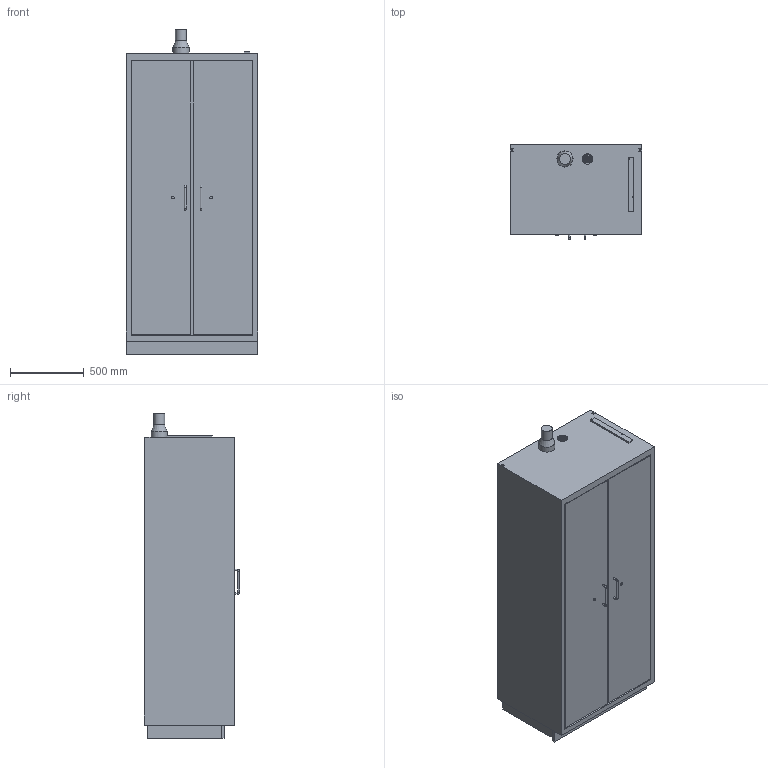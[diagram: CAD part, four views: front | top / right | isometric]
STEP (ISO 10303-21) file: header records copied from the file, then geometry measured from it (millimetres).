
FILE_DESCRIPTION(/* description */ ('Unknown'),/* implementation_level */ '2;1');
FILE_NAME(/* name */ 'Sicherheitsschrank Typ 90_D00086244',/* time_stamp */ '2019-04-10T11:25:34+02:00',/* author */ ('Unknown'),/* organization */ ('Unknown'),/* preprocessor_version */ 'ST-DEVELOPER v16.7',/* originating_system */ 'DEX',/* authorisation */ $);
FILE_SCHEMA (('AUTOMOTIVE_DESIGN {1 0 10303 214 3 1 1}'));
Length unit declared in the file: millimetre
Products named in the file (1): Sicherheitsschrank Typ 90_D00086244
Bounding box: 894 x 647 x 2203 mm (x, y, z)
Volume: 1070908568.3 mm3; surface area: 8392279.3 mm2
Topology: 1 solids, 1 shells, 118 faces, 281 edges, 186 vertices
Faces by surface type: plane 85, cylinder 28, torus 4, cone 1
Full cylindrical faces by diameter (mm): 6.2 x2, 7.5 x2, 12 x6, 18 x2, 75 x1, 109.5 x1
Entity records: 4109 total; most frequent: CARTESIAN_POINT 557, DIRECTION 552, ORIENTED_EDGE 514, EDGE_CURVE 257, LINE 200, VECTOR 200, VERTEX_POINT 181, AXIS2_PLACEMENT_3D 176
